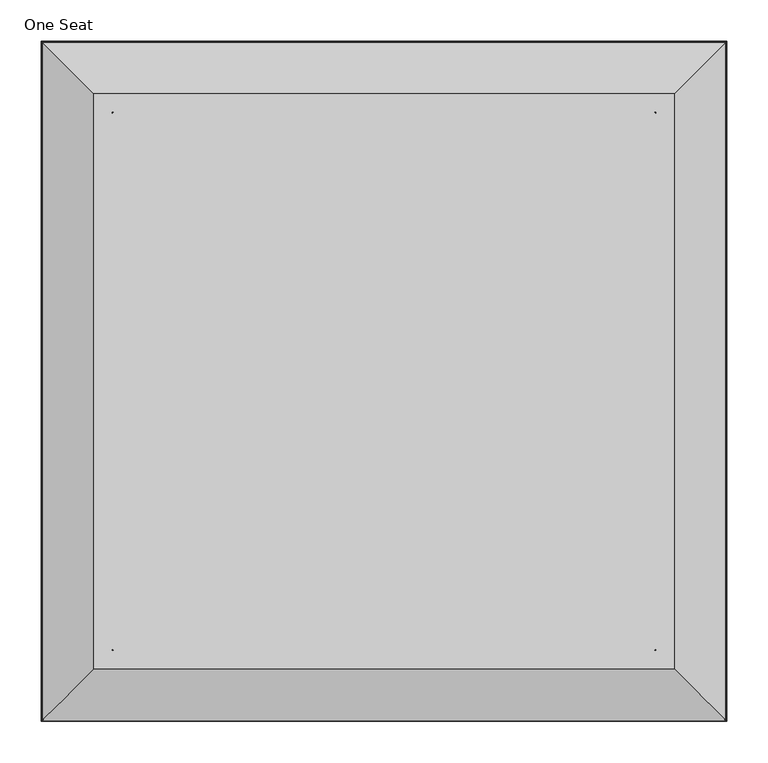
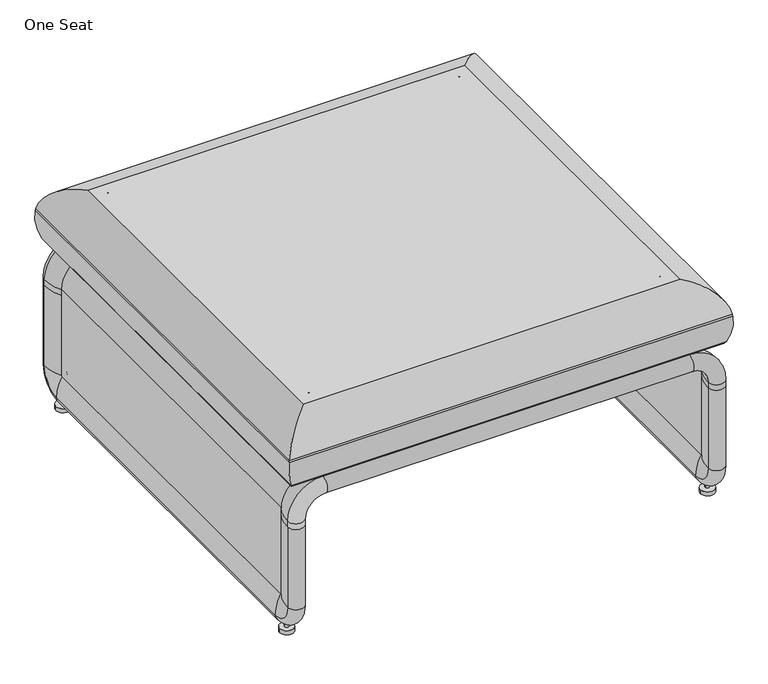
"""IFC4 building model written with IfcOpenShell, lengths in millimetres: furniture geometry, Coalesse_AM_Seating_LoungeChair_Lagunitas_Bench : One Seat."""

from ifc_helpers import new_model, si_unit, point, frame, frame_2d, origin, origin_with_axes, place, context, project, spatial, polyline, circle_curve, ellipse_curve, trimmed, segment, composite_curve, outline, extrude, source, transform, mapped, element, save
from ifc_brep_helpers import plane_surface, cylinder_surface, revolved_surface, advanced_brep


def one_seat_c15789ba(model_context):
    return source(origin(), model_context, "Body", "SolidModel", [
        advanced_brep(
        [(-694.9854971, 331.7027048, 308.3159554), (-694.9854971, 331.7027048, 423.1505158), (-695.7474971, 331.7027048, 423.1505158), (-695.7474971, 331.7027048, 308.3159554), (-1352.2104971, 331.7027048, 423.1505158), (-1352.2104971, 331.7027048, 308.3159554), (-1351.4484971, 331.7027048, 308.3159554), (-1351.4484971, 331.7027048, 423.1505158), (-617.1074004, 409.5808014, 313.8220641), (-625.4907835, 401.1974183, 308.3159554), (-1421.7052106, 401.1974183, 308.3159554), (-1430.0885937, 409.5808014, 313.8220641), (-1437.7967459, 417.2889536, 366.6638866), (-609.3992483, 417.2889536, 366.6638866), (-1437.3399768, 416.8321845, 370.0179265), (-609.8560174, 416.8321845, 370.0179265), (-1375.456588, 354.9487957, 423.1505158), (-671.7394061, 354.9487957, 423.1505158), (-1352.2104971, 330.9407048, 423.1505158), (-1352.2104971, 330.9407048, 308.3159554), (-1352.2104971, -319.1854727, 423.1505158), (-1352.2104971, -319.1854727, 308.3159554), (-1352.2104971, -318.4234727, 308.3159554), (-1352.2104971, -318.4234727, 423.1505158), (-1421.7052106, -388.6801863, 308.3159554), (-1430.0885937, -397.0635693, 313.8220641), (-1437.7967459, -404.7717215, 366.6638866), (-1437.3399768, -404.3149524, 370.0179265), (-1375.456588, -342.4315637, 423.1505158), (-1351.4484971, -319.1854727, 423.1505158), (-1351.4484971, -319.1854727, 308.3159554), (-694.9854971, -319.1854727, 423.1505158), (-694.9854971, -319.1854727, 308.3159554), (-695.7474971, -319.1854727, 308.3159554), (-695.7474971, -319.1854727, 423.1505158), (-625.4907835, -388.6801863, 308.3159554), (-617.1074004, -397.0635693, 313.8220641), (-609.3992483, -404.7717215, 366.6638866), (-609.8560174, -404.3149524, 370.0179265), (-671.7394061, -342.4315637, 423.1505158), (-694.9854971, 330.9407048, 308.3159554), (-694.9854971, 330.9407048, 423.1505158), (-694.9854971, -318.4234727, 423.1505158), (-694.9854971, -318.4234727, 308.3159554)],
        [
            (0, 1),
            (1, 2),
            (2, 3),
            (3, 0),
            (4, 5),
            (5, 6),
            (6, 7),
            (7, 4),
            (8, 9, ellipse_curve(frame((-625.4907835, 401.1974183, 317.4511134), z_axis=(-0.7071067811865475, 0.7071067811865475, 0.0), x_axis=(0.7071067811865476, 0.7071067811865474, 0.0)), 12.9190643, 9.135158)),
            (9, 10),
            (10, 11, ellipse_curve(frame((-1421.7052106, 401.1974183, 317.4511134), z_axis=(0.7071067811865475, 0.7071067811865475, 0.0), x_axis=(0.7071067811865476, -0.7071067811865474, 0.0)), 12.9190643, 9.135158)),
            (11, 8),
            (11, 12, ellipse_curve(frame((-1336.0753091, 315.5675168, 354.5191011), z_axis=(0.7071067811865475, 0.7071067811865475, 0.0), x_axis=(0.7071067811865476, -0.7071067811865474, 0.0)), 144.8775104, 102.44387)),
            (12, 13),
            (13, 8, ellipse_curve(frame((-711.120685, 315.5675168, 354.5191011), z_axis=(-0.7071067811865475, 0.7071067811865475, 0.0), x_axis=(0.7071067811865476, 0.7071067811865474, 0.0)), 144.8775104, 102.44387)),
            (12, 14, ellipse_curve(frame((-1336.0753091, 315.5675168, 354.5191011), z_axis=(0.7071067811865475, 0.7071067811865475, 0.0), x_axis=(0.7071067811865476, -0.7071067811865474, 0.0)), 144.8775104, 102.44387)),
            (14, 15),
            (15, 13, ellipse_curve(frame((-711.120685, 315.5675168, 354.5191011), z_axis=(-0.7071067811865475, 0.7071067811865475, 0.0), x_axis=(0.7071067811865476, 0.7071067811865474, 0.0)), 144.8775104, 102.44387)),
            (14, 16, ellipse_curve(frame((-1375.456588, 354.9487957, 360.5465101), z_axis=(0.7071067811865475, 0.7071067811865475, 0.0), x_axis=(0.7071067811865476, -0.7071067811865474, 0.0)), 88.535434, 62.6040057)),
            (16, 17),
            (17, 15, ellipse_curve(frame((-671.7394061, 354.9487957, 360.5465101), z_axis=(-0.7071067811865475, 0.7071067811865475, 0.0), x_axis=(0.7071067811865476, 0.7071067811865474, 0.0)), 88.535434, 62.6040057)),
            (4, 18),
            (18, 19),
            (19, 5),
            (20, 21),
            (21, 22),
            (22, 23),
            (23, 20),
            (10, 24),
            (24, 25, ellipse_curve(frame((-1421.7052106, -388.6801863, 317.4511134), z_axis=(-0.7071067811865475, 0.7071067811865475, 0.0), x_axis=(0.7071067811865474, 0.7071067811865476, 0.0)), 12.9190643, 9.135158)),
            (25, 11),
            (25, 26, ellipse_curve(frame((-1336.0753091, -303.0502848, 354.5191011), z_axis=(-0.7071067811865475, 0.7071067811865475, 0.0), x_axis=(0.7071067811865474, 0.7071067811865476, 0.0)), 144.8775104, 102.44387)),
            (26, 12),
            (26, 27, ellipse_curve(frame((-1336.0753091, -303.0502848, 354.5191011), z_axis=(-0.7071067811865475, 0.7071067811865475, 0.0), x_axis=(0.7071067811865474, 0.7071067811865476, 0.0)), 144.8775104, 102.44387)),
            (27, 14),
            (27, 28, ellipse_curve(frame((-1375.456588, -342.4315637, 360.5465101), z_axis=(-0.7071067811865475, 0.7071067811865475, 0.0), x_axis=(0.7071067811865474, 0.7071067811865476, 0.0)), 88.535434, 62.6040057)),
            (28, 16),
            (20, 29),
            (29, 30),
            (30, 21),
            (31, 32),
            (32, 33),
            (33, 34),
            (34, 31),
            (24, 35),
            (35, 36, ellipse_curve(frame((-625.4907835, -388.6801863, 317.4511134), z_axis=(-0.7071067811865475, -0.7071067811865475, 0.0), x_axis=(-0.7071067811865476, 0.7071067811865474, 0.0)), 12.9190643, 9.135158)),
            (36, 25),
            (36, 37, ellipse_curve(frame((-711.120685, -303.0502848, 354.5191011), z_axis=(-0.7071067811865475, -0.7071067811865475, 0.0), x_axis=(-0.7071067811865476, 0.7071067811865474, 0.0)), 144.8775104, 102.44387)),
            (37, 26),
            (37, 38, ellipse_curve(frame((-711.120685, -303.0502848, 354.5191011), z_axis=(-0.7071067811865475, -0.7071067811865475, 0.0), x_axis=(-0.7071067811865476, 0.7071067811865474, 0.0)), 144.8775104, 102.44387)),
            (38, 27),
            (38, 39, ellipse_curve(frame((-671.7394061, -342.4315637, 360.5465101), z_axis=(-0.7071067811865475, -0.7071067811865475, 0.0), x_axis=(-0.7071067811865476, 0.7071067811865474, 0.0)), 88.535434, 62.6040057)),
            (39, 28),
            (0, 40),
            (40, 41),
            (41, 1),
            (31, 42),
            (42, 43),
            (43, 32),
            (9, 35),
            (3, 40, circle_curve(frame((-695.7474971, 330.9407048, 308.3159554), z_axis=(0.0, 0.0, -1.0), x_axis=(1.0, 0.0, 0.0)), 0.762)),
            (19, 6, circle_curve(frame((-1351.4484971, 330.9407048, 308.3159554), z_axis=(0.0, 0.0, -1.0), x_axis=(1.0, 0.0, 0.0)), 0.762)),
            (30, 22, circle_curve(frame((-1351.4484971, -318.4234727, 308.3159554), z_axis=(0.0, 0.0, -1.0), x_axis=(1.0, 0.0, 0.0)), 0.762)),
            (43, 33, circle_curve(frame((-695.7474971, -318.4234727, 308.3159554), z_axis=(0.0, 0.0, -1.0), x_axis=(1.0, 0.0, 0.0)), 0.762)),
            (8, 36),
            (13, 37),
            (15, 38),
            (17, 39),
            (7, 18, circle_curve(frame((-1351.4484971, 330.9407048, 423.1505158), z_axis=(0.0, 0.0, 1.0), x_axis=(1.0, 0.0, 0.0)), 0.762)),
            (23, 29, circle_curve(frame((-1351.4484971, -318.4234727, 423.1505158), z_axis=(0.0, 0.0, 1.0), x_axis=(1.0, 0.0, 0.0)), 0.762)),
            (34, 42, circle_curve(frame((-695.7474971, -318.4234727, 423.1505158), z_axis=(0.0, 0.0, 1.0), x_axis=(1.0, 0.0, 0.0)), 0.762)),
            (41, 2, circle_curve(frame((-695.7474971, 330.9407048, 423.1505158), z_axis=(0.0, 0.0, 1.0), x_axis=(1.0, 0.0, 0.0)), 0.762)),
        ],
        [
            plane_surface(frame((-694.9854971, 331.7027048, 423.1505158), z_axis=(0.0, -1.0, 0.0), x_axis=(-1.0, 0.0, 0.0))),
            cylinder_surface(frame((-694.9854971, 401.1974183, 317.4511134), z_axis=(1.0, 0.0, 0.0), x_axis=(0.0, -1.0, 0.0)), 9.135158),
            cylinder_surface(frame((-694.9854971, 315.5675168, 354.5191011), z_axis=(1.0, 0.0, 0.0), x_axis=(0.0, -1.0, 0.0)), 102.44387),
            cylinder_surface(frame((-694.9854971, 354.9487957, 360.5465101), z_axis=(1.0, 0.0, 0.0), x_axis=(0.0, -1.0, 0.0)), 62.6040057),
            plane_surface(frame((-1352.2104971, 331.7027048, 423.1505158), z_axis=(1.0, 0.0, 0.0), x_axis=(0.0, -1.0, 0.0))),
            cylinder_surface(frame((-1421.7052106, 331.7027048, 317.4511134), z_axis=(0.0, 1.0, 0.0), x_axis=(1.0, 0.0, 0.0)), 9.135158),
            cylinder_surface(frame((-1336.0753091, 331.7027048, 354.5191011), z_axis=(0.0, 1.0, 0.0), x_axis=(1.0, 0.0, 0.0)), 102.44387),
            cylinder_surface(frame((-1375.456588, 331.7027048, 360.5465101), z_axis=(0.0, 1.0, 0.0), x_axis=(1.0, 0.0, 0.0)), 62.6040057),
            plane_surface(frame((-1352.2104971, -319.1854727, 423.1505158), z_axis=(0.0, 1.0, 0.0), x_axis=(1.0, 0.0, 0.0))),
            cylinder_surface(frame((-1352.2104971, -388.6801863, 317.4511134), z_axis=(-1.0, 0.0, 0.0), x_axis=(0.0, 1.0, 0.0)), 9.135158),
            cylinder_surface(frame((-1352.2104971, -303.0502848, 354.5191011), z_axis=(-1.0, 0.0, 0.0), x_axis=(0.0, 1.0, 0.0)), 102.44387),
            cylinder_surface(frame((-1352.2104971, -342.4315637, 360.5465101), z_axis=(-1.0, 0.0, 0.0), x_axis=(0.0, 1.0, 0.0)), 62.6040057),
            plane_surface(frame((-694.9854971, -319.1854727, 423.1505158), z_axis=(-1.0, 0.0, 0.0), x_axis=(0.0, 1.0, 0.0))),
            plane_surface(frame((-694.9854971, -319.1854727, 308.3159554), z_axis=(0.0, 0.0, -1.0), x_axis=(0.0, 1.0, 0.0))),
            cylinder_surface(frame((-625.4907835, -319.1854727, 317.4511134), z_axis=(0.0, -1.0, 0.0), x_axis=(-1.0, 0.0, 0.0)), 9.135158),
            cylinder_surface(frame((-711.120685, -319.1854727, 354.5191011), z_axis=(0.0, -1.0, 0.0), x_axis=(-1.0, 0.0, 0.0)), 102.44387),
            cylinder_surface(frame((-671.7394061, -319.1854727, 360.5465101), z_axis=(0.0, -1.0, 0.0), x_axis=(-1.0, 0.0, 0.0)), 62.6040057),
            plane_surface(frame((-671.7394061, -342.4315637, 423.1505158), z_axis=(0.0, 0.0, 1.0), x_axis=(0.0, 1.0, 0.0))),
            cylinder_surface(frame((-1351.4484971, 330.9407048, 308.3159554), z_axis=(0.0, 0.0, 1.0), x_axis=(1.0, 0.0, 0.0)), 0.762),
            cylinder_surface(frame((-1351.4484971, -318.4234727, 308.3159554), z_axis=(0.0, 0.0, 1.0), x_axis=(1.0, 0.0, 0.0)), 0.762),
            cylinder_surface(frame((-695.7474971, -318.4234727, 308.3159554), z_axis=(0.0, 0.0, 1.0), x_axis=(1.0, 0.0, 0.0)), 0.762),
            cylinder_surface(frame((-695.7474971, 330.9407048, 308.3159554), z_axis=(0.0, 0.0, 1.0), x_axis=(1.0, 0.0, 0.0)), 0.762),
        ],
        [
            (0, [[1, 2, 3, 4]]),
            (0, [[5, 6, 7, 8]]),
            (1, [[9, 10, 11, 12]]),
            (2, [[-12, 13, 14, 15]]),
            (2, [[-14, 16, 17, 18]]),
            (3, [[-17, 19, 20, 21]]),
            (4, [[-5, 22, 23, 24]]),
            (4, [[25, 26, 27, 28]]),
            (5, [[-11, 29, 30, 31]]),
            (6, [[-13, -31, 32, 33]]),
            (6, [[-16, -33, 34, 35]]),
            (7, [[-19, -35, 36, 37]]),
            (8, [[-25, 38, 39, 40]]),
            (8, [[41, 42, 43, 44]]),
            (9, [[-30, 45, 46, 47]]),
            (10, [[-32, -47, 48, 49]]),
            (10, [[-34, -49, 50, 51]]),
            (11, [[-36, -51, 52, 53]]),
            (12, [[-1, 54, 55, 56]]),
            (12, [[-41, 57, 58, 59]]),
            (13, [[-10, 60, -45, -29], [-4, 61, -54], [-24, 62, -6], [-40, 63, -26], [-59, 64, -42]]),
            (14, [[-9, 65, -46, -60]]),
            (15, [[-15, 66, -48, -65]]),
            (15, [[-18, 67, -50, -66]]),
            (16, [[-21, 68, -52, -67]]),
            (17, [[-20, -37, -53, -68], [-8, 69, -22], [-28, 70, -38], [-44, 71, -57], [-56, 72, -2]]),
            (18, [[-69, -7, -62, -23]]),
            (19, [[-70, -27, -63, -39]]),
            (20, [[-71, -43, -64, -58]]),
            (21, [[-72, -55, -61, -3]]),
        ],
    ),
        extrude(outline(composite_curve([segment(trimmed(circle_curve(frame_2d((-629.9086271, -358.9512574)), 13.208), [point((-616.7006271, -358.9512574))], [point((-643.1166271, -358.9512574))], False, "CARTESIAN"), True, "CONTINUOUS"), segment(trimmed(circle_curve(frame_2d((-629.9086271, -358.9512574)), 13.208), [point((-643.1166271, -358.9512574))], [point((-616.7006271, -358.9512574))], False, "CARTESIAN"), True, "CONTINUOUS")], self_intersect=False)), origin_with_axes(), (0.0, 0.0, 1.0), 7.9249983),
        extrude(outline(composite_curve([segment(trimmed(circle_curve(frame_2d((-630.7733341, 366.0094457)), 13.208), [point((-617.5653341, 366.0094457))], [point((-643.9813341, 366.0094457))], False, "CARTESIAN"), True, "CONTINUOUS"), segment(trimmed(circle_curve(frame_2d((-630.7733341, 366.0094457)), 13.208), [point((-643.9813341, 366.0094457))], [point((-617.5653341, 366.0094457))], False, "CARTESIAN"), True, "CONTINUOUS")], self_intersect=False)), origin_with_axes(), (0.0, 0.0, 1.0), 7.9249983),
        extrude(outline(composite_curve([segment(trimmed(circle_curve(frame_2d((-630.0389401, 365.9413212)), 3.8556407), [point((-626.1832994, 365.9413212))], [point((-633.8945809, 365.9413212))], False, "CARTESIAN"), True, "CONTINUOUS"), segment(trimmed(circle_curve(frame_2d((-630.0389401, 365.9413212)), 3.8556407), [point((-633.8945809, 365.9413212))], [point((-626.1832994, 365.9413212))], False, "CARTESIAN"), True, "CONTINUOUS")], self_intersect=False)), frame((0.0, 0.0, 7.9249983), z_axis=(0.0, 0.0, 1.0), x_axis=(1.0, 0.0, 0.0)), (0.0, 0.0, 1.0), 41.9053919),
        extrude(outline(composite_curve([segment(trimmed(circle_curve(frame_2d((-630.0389401, -357.9586788)), 3.8556407), [point((-626.1832994, -357.9586788))], [point((-633.8945809, -357.9586788))], False, "CARTESIAN"), True, "CONTINUOUS"), segment(trimmed(circle_curve(frame_2d((-630.0389401, -357.9586788)), 3.8556407), [point((-633.8945809, -357.9586788))], [point((-626.1832994, -357.9586788))], False, "CARTESIAN"), True, "CONTINUOUS")], self_intersect=False)), frame((0.0, 0.0, 7.9249983), z_axis=(0.0, 0.0, 1.0), x_axis=(1.0, 0.0, 0.0)), (0.0, 0.0, 1.0), 41.9053919),
        advanced_brep(
        [(-1364.817987, 361.2223108, 294.5571477), (-1364.817987, -349.3993584, 294.5571477), (-680.8932141, -349.3993584, 294.5571477), (-680.8932141, 361.2223108, 294.5571477), (-680.8932141, 399.3471866, 304.6510848), (-1364.817987, 399.3471866, 304.6510848), (-680.8932141, 399.3471866, 273.9829819), (-1364.817987, 399.3471866, 273.9829819), (-680.8932141, 361.2223108, 284.076919), (-1364.817987, 361.2223108, 284.076919), (-680.8932141, -349.3993584, 284.076919), (-1364.817987, -349.3993584, 284.076919), (-680.8932141, -387.5242343, 273.9829819), (-1364.817987, -387.5242343, 273.9829819), (-680.8932141, -387.5242343, 304.6510848), (-1364.817987, -387.5242343, 304.6510848), (-1421.0182157, -349.3993584, 227.5269902), (-1421.0182157, -349.3993584, 238.356919), (-1421.0182157, 361.2223108, 238.356919), (-1421.0182157, 361.2223108, 227.5269902), (-1421.0182157, 361.2223108, 68.7769902), (-1421.0182157, 359.9523108, 67.5069902), (-1421.0182157, -348.1293584, 67.5069902), (-1421.0182157, -349.3993584, 68.7769902), (-1431.1121528, 399.3471866, 238.356919), (-1431.1121528, 399.3471866, 227.5269902), (-1400.4440499, 399.3471866, 238.356919), (-1400.4440499, 399.3471866, 227.5269902), (-1410.537987, 361.2223108, 238.356919), (-1410.537987, 361.2223108, 227.5269902), (-1410.537987, -349.3993584, 238.356919), (-1410.537987, -349.3993584, 227.5269902), (-1410.537987, -349.3993584, 68.7769902), (-1410.537987, -348.1293832, 67.5069902), (-1410.537987, 359.9523108, 67.5069902), (-1410.537987, 361.2223108, 68.7769646), (-1400.4440499, -387.5242343, 238.356919), (-1400.4440499, -387.5242343, 227.5269902), (-1431.1121528, -387.5242343, 238.356919), (-1431.1121528, -387.5242343, 227.5269902), (-1400.4440499, -387.5242343, 68.7769902), (-1431.1121528, -387.5242343, 68.7769902), (-1400.4440499, -348.1293584, 29.3821143), (-1431.1121528, -348.1293584, 29.3821143), (-1400.4440499, 359.9523108, 29.3821143), (-1431.1121528, 359.9523108, 29.3821143), (-1400.4440499, 399.3471866, 68.7769902), (-1431.1121528, 399.3471866, 68.7769902), (-624.6929853, -349.3993584, 238.356919), (-624.6929853, 361.2223108, 238.356919), (-614.5990483, 399.3471866, 238.356919), (-645.2671512, 399.3471866, 238.356919), (-635.1732141, 361.2223108, 238.356919), (-635.1732141, -349.3993584, 238.356919), (-645.2671512, -387.5242343, 238.356919), (-614.5990483, -387.5242343, 238.356919), (-624.6929853, -349.3993584, 227.5269902), (-624.6929853, -349.3993584, 68.7769902), (-624.6929853, -348.1293584, 67.5069902), (-624.6929853, 359.9523108, 67.5069902), (-624.6929853, 361.2223108, 68.7769902), (-624.6929853, 361.2223108, 227.5269902), (-614.5990483, 399.3471866, 227.5269902), (-645.2671512, 399.3471866, 227.5269902), (-635.1732141, 361.2223108, 227.5269902), (-635.1732141, 361.2223108, 68.7769902), (-635.1732141, 359.9523108, 67.5069902), (-635.1732141, -348.1293584, 67.5069902), (-635.1732141, -349.3993584, 68.7769902), (-635.1732141, -349.3993584, 227.5269902), (-645.2671512, -387.5242343, 227.5269902), (-614.5990483, -387.5242343, 227.5269902), (-645.2671512, -387.5242343, 68.7769902), (-614.5990483, -387.5242343, 68.7769902), (-645.2671512, -348.1293584, 29.3821143), (-614.5990483, -348.1293584, 29.3821143), (-645.2671512, 359.9523108, 29.3821143), (-614.5990483, 359.9523108, 29.3821143), (-645.2671512, 399.3471866, 68.7769902), (-614.5990483, 399.3471866, 68.7769902)],
        [
            (0, 1),
            (1, 2),
            (2, 3),
            (3, 0),
            (3, 4, circle_curve(frame((-680.8932141, 399.022058, 228.8331589), z_axis=(-1.0, 0.0, 0.0), x_axis=(0.0, 0.0, 1.0)), 75.818623)),
            (4, 5),
            (5, 0, circle_curve(frame((-1364.817987, 399.022058, 228.8331589), z_axis=(1.0, 0.0, 0.0), x_axis=(0.0, 0.0, 1.0)), 75.818623)),
            (4, 6, circle_curve(frame((-680.8932141, 399.2814298, 289.3170334), z_axis=(-1.0, 0.0, 0.0), x_axis=(0.0, 0.0, 1.0)), 15.3341924)),
            (6, 7),
            (7, 5, circle_curve(frame((-1364.817987, 399.2814298, 289.3170334), z_axis=(1.0, 0.0, 0.0), x_axis=(0.0, 0.0, 1.0)), 15.3341924)),
            (6, 8, circle_curve(frame((-680.8932141, 399.022058, 349.8009078), z_axis=(-1.0, 0.0, 0.0), x_axis=(0.0, 0.0, 1.0)), 75.818623)),
            (8, 9),
            (9, 7, circle_curve(frame((-1364.817987, 399.022058, 349.8009078), z_axis=(1.0, 0.0, 0.0), x_axis=(0.0, 0.0, 1.0)), 75.818623)),
            (8, 10),
            (10, 11),
            (11, 9),
            (10, 12, circle_curve(frame((-680.8932141, -387.1991056, 349.8009078), z_axis=(-1.0, 0.0, 0.0), x_axis=(0.0, 0.0, 1.0)), 75.818623)),
            (12, 13),
            (13, 11, circle_curve(frame((-1364.817987, -387.1991056, 349.8009078), z_axis=(1.0, 0.0, 0.0), x_axis=(0.0, 0.0, 1.0)), 75.818623)),
            (12, 14, circle_curve(frame((-680.8932141, -387.4584775, 289.3170334), z_axis=(-1.0, 0.0, 0.0), x_axis=(0.0, 0.0, 1.0)), 15.3341924)),
            (14, 15),
            (15, 13, circle_curve(frame((-1364.817987, -387.4584775, 289.3170334), z_axis=(1.0, 0.0, 0.0), x_axis=(0.0, 0.0, 1.0)), 15.3341924)),
            (1, 15, circle_curve(frame((-1364.817987, -387.1991056, 228.8331589), z_axis=(1.0, 0.0, 0.0), x_axis=(0.0, 0.0, 1.0)), 75.818623)),
            (14, 2, circle_curve(frame((-680.8932141, -387.1991056, 228.8331589), z_axis=(-1.0, 0.0, 0.0), x_axis=(0.0, 0.0, 1.0)), 75.818623)),
            (16, 17),
            (17, 18),
            (18, 19),
            (19, 20),
            (20, 21, circle_curve(frame((-1421.0182157, 359.9523108, 68.7769902), z_axis=(-1.0, 0.0, 0.0), x_axis=(0.0, 0.0, -1.0)), 1.27)),
            (21, 22),
            (22, 23, circle_curve(frame((-1421.0182157, -348.1293584, 68.7769902), z_axis=(-1.0, 0.0, 0.0), x_axis=(0.0, -1.0, 0.0)), 1.27)),
            (23, 16),
            (18, 24, circle_curve(frame((-1355.2942269, 399.022058, 238.356919), z_axis=(0.0, 0.0, -1.0), x_axis=(-1.0, 0.0, 0.0)), 75.818623)),
            (24, 25),
            (25, 19, circle_curve(frame((-1355.2942269, 399.022058, 227.5269902), z_axis=(0.0, 0.0, 1.0), x_axis=(-1.0, 0.0, 0.0)), 75.818623)),
            (24, 26, circle_curve(frame((-1415.7781014, 399.2814298, 238.356919), z_axis=(0.0, 0.0, -1.0), x_axis=(-1.0, 0.0, 0.0)), 15.3341924)),
            (26, 27),
            (27, 25, circle_curve(frame((-1415.7781014, 399.2814298, 227.5269902), z_axis=(0.0, 0.0, 1.0), x_axis=(-1.0, 0.0, 0.0)), 15.3341924)),
            (26, 28, circle_curve(frame((-1476.2619758, 399.022058, 238.356919), z_axis=(0.0, 0.0, -1.0), x_axis=(-1.0, 0.0, 0.0)), 75.818623)),
            (28, 29),
            (29, 27, circle_curve(frame((-1476.2619758, 399.022058, 227.5269902), z_axis=(0.0, 0.0, 1.0), x_axis=(-1.0, 0.0, 0.0)), 75.818623)),
            (28, 30),
            (30, 31),
            (31, 32),
            (32, 33, circle_curve(frame((-1410.537987, -348.1293584, 68.7769902), z_axis=(1.0, 0.0, 0.0), x_axis=(0.0, -1.0, 0.0)), 1.27)),
            (33, 34),
            (34, 35, circle_curve(frame((-1410.537987, 359.9523108, 68.7769902), z_axis=(1.0, 0.0, 0.0), x_axis=(0.0, 0.0, -1.0)), 1.27)),
            (35, 29),
            (30, 36, circle_curve(frame((-1476.2619758, -387.1991056, 238.356919), z_axis=(0.0, 0.0, -1.0), x_axis=(-1.0, 0.0, 0.0)), 75.818623)),
            (36, 37),
            (37, 31, circle_curve(frame((-1476.2619758, -387.1991056, 227.5269902), z_axis=(0.0, 0.0, 1.0), x_axis=(-1.0, 0.0, 0.0)), 75.818623)),
            (36, 38, circle_curve(frame((-1415.7781014, -387.4584775, 238.356919), z_axis=(0.0, 0.0, -1.0), x_axis=(-1.0, 0.0, 0.0)), 15.3341924)),
            (38, 39),
            (39, 37, circle_curve(frame((-1415.7781014, -387.4584775, 227.5269902), z_axis=(0.0, 0.0, 1.0), x_axis=(-1.0, 0.0, 0.0)), 15.3341924)),
            (16, 39, circle_curve(frame((-1355.2942269, -387.1991056, 227.5269902), z_axis=(0.0, 0.0, 1.0), x_axis=(-1.0, 0.0, 0.0)), 75.818623)),
            (38, 17, circle_curve(frame((-1355.2942269, -387.1991056, 238.356919), z_axis=(0.0, 0.0, -1.0), x_axis=(-1.0, 0.0, 0.0)), 75.818623)),
            (0, 18, circle_curve(frame((-1364.817987, 361.2223108, 238.356919), z_axis=(0.0, -1.0, 0.0), x_axis=(-1.0, 0.0, 0.0)), 56.2002288)),
            (17, 1, circle_curve(frame((-1364.817987, -349.3993584, 238.356919), z_axis=(0.0, 1.0, 0.0), x_axis=(-1.0, 0.0, 0.0)), 56.2002288)),
            (5, 24, circle_curve(frame((-1364.817987, 399.3471866, 238.356919), z_axis=(0.0, -1.0, 0.0), x_axis=(-1.0, 0.0, 0.0)), 66.2941658)),
            (7, 26, circle_curve(frame((-1364.817987, 399.3471866, 238.356919), z_axis=(0.0, -1.0, 0.0), x_axis=(-1.0, 0.0, 0.0)), 35.6260629)),
            (9, 28, circle_curve(frame((-1364.817987, 361.2223108, 238.356919), z_axis=(0.0, -1.0, 0.0), x_axis=(-1.0, 0.0, 0.0)), 45.72)),
            (11, 30, circle_curve(frame((-1364.817987, -349.3993584, 238.356919), z_axis=(0.0, -1.0, 0.0), x_axis=(-1.0, 0.0, 0.0)), 45.72)),
            (13, 36, circle_curve(frame((-1364.817987, -387.5242343, 238.356919), z_axis=(0.0, -1.0, 0.0), x_axis=(-1.0, 0.0, 0.0)), 35.6260629)),
            (15, 38, circle_curve(frame((-1364.817987, -387.5242343, 238.356919), z_axis=(0.0, -1.0, 0.0), x_axis=(-1.0, 0.0, 0.0)), 66.2941658)),
            (37, 40),
            (40, 32, circle_curve(frame((-1476.2619758, -387.1991056, 68.7769902), z_axis=(0.0, 0.0, 1.0), x_axis=(1.0, 0.0, 0.0)), 75.818623)),
            (23, 41, circle_curve(frame((-1355.2942269, -387.1991056, 68.7769902), z_axis=(0.0, 0.0, 1.0), x_axis=(1.0, 0.0, 0.0)), 75.818623)),
            (41, 39),
            (41, 40, circle_curve(frame((-1415.7781014, -387.4584775, 68.7769902), z_axis=(0.0, 0.0, 1.0), x_axis=(1.0, 0.0, 0.0)), 15.3341924)),
            (40, 42, circle_curve(frame((-1400.4440499, -348.1293584, 68.7769902), z_axis=(1.0, 0.0, 0.0), x_axis=(0.0, -1.0, 0.0)), 39.3948758)),
            (42, 33, circle_curve(frame((-1476.2619758, -348.1293584, 29.707243), z_axis=(0.0, -1.0, 0.0), x_axis=(1.0, 0.0, 0.0)), 75.818623)),
            (22, 43, circle_curve(frame((-1355.2942269, -348.1293584, 29.707243), z_axis=(0.0, -1.0, 0.0), x_axis=(1.0, 0.0, 0.0)), 75.818623)),
            (43, 41, circle_curve(frame((-1431.1121528, -348.1293584, 68.7769902), z_axis=(-1.0, 0.0, 0.0), x_axis=(0.0, -1.0, 0.0)), 39.3948758)),
            (43, 42, circle_curve(frame((-1415.7781014, -348.1293584, 29.4478711), z_axis=(0.0, -1.0, 0.0), x_axis=(1.0, 0.0, 0.0)), 15.3341924)),
            (42, 44),
            (44, 34, circle_curve(frame((-1476.2619758, 359.9523108, 29.707243), z_axis=(0.0, -1.0, 0.0), x_axis=(1.0, 0.0, 0.0)), 75.818623)),
            (21, 45, circle_curve(frame((-1355.2942269, 359.9523108, 29.707243), z_axis=(0.0, -1.0, 0.0), x_axis=(1.0, 0.0, 0.0)), 75.818623)),
            (45, 43),
            (45, 44, circle_curve(frame((-1415.7781014, 359.9523108, 29.4478711), z_axis=(0.0, -1.0, 0.0), x_axis=(1.0, 0.0, 0.0)), 15.3341924)),
            (44, 46, circle_curve(frame((-1400.4440499, 359.9523108, 68.7769902), z_axis=(1.0, 0.0, 0.0), x_axis=(0.0, 0.0, -1.0)), 39.3948758)),
            (46, 35, circle_curve(frame((-1476.2619758, 399.022058, 68.7769902), z_axis=(0.0, 0.0, -1.0), x_axis=(1.0, 0.0, 0.0)), 75.818623)),
            (20, 47, circle_curve(frame((-1355.2942269, 399.022058, 68.7769902), z_axis=(0.0, 0.0, -1.0), x_axis=(1.0, 0.0, 0.0)), 75.818623)),
            (47, 45, circle_curve(frame((-1431.1121528, 359.9523108, 68.7769902), z_axis=(-1.0, 0.0, 0.0), x_axis=(0.0, 0.0, -1.0)), 39.3948758)),
            (47, 46, circle_curve(frame((-1415.7781014, 399.2814298, 68.7769902), z_axis=(0.0, 0.0, -1.0), x_axis=(1.0, 0.0, 0.0)), 15.3341924)),
            (46, 27),
            (25, 47),
            (2, 48, circle_curve(frame((-680.8932141, -349.3993584, 238.356919), z_axis=(0.0, 1.0, 0.0), x_axis=(0.0, 0.0, 1.0)), 56.2002288)),
            (48, 49),
            (49, 3, circle_curve(frame((-680.8932141, 361.2223108, 238.356919), z_axis=(0.0, -1.0, 0.0), x_axis=(0.0, 0.0, 1.0)), 56.2002288)),
            (49, 50, circle_curve(frame((-690.4169741, 399.022058, 238.356919), z_axis=(0.0, 0.0, 1.0), x_axis=(1.0, 0.0, 0.0)), 75.818623)),
            (50, 4, circle_curve(frame((-680.8932141, 399.3471866, 238.356919), z_axis=(0.0, -1.0, 0.0), x_axis=(0.0, 0.0, 1.0)), 66.2941658)),
            (50, 51, circle_curve(frame((-629.9330997, 399.2814298, 238.356919), z_axis=(0.0, 0.0, 1.0), x_axis=(1.0, 0.0, 0.0)), 15.3341924)),
            (51, 6, circle_curve(frame((-680.8932141, 399.3471866, 238.356919), z_axis=(0.0, -1.0, 0.0), x_axis=(0.0, 0.0, 1.0)), 35.6260629)),
            (51, 52, circle_curve(frame((-569.4492253, 399.022058, 238.356919), z_axis=(0.0, 0.0, 1.0), x_axis=(1.0, 0.0, 0.0)), 75.818623)),
            (52, 8, circle_curve(frame((-680.8932141, 361.2223108, 238.356919), z_axis=(0.0, -1.0, 0.0), x_axis=(0.0, 0.0, 1.0)), 45.72)),
            (52, 53),
            (53, 10, circle_curve(frame((-680.8932141, -349.3993584, 238.356919), z_axis=(0.0, -1.0, 0.0), x_axis=(0.0, 0.0, 1.0)), 45.72)),
            (53, 54, circle_curve(frame((-569.4492253, -387.1991056, 238.356919), z_axis=(0.0, 0.0, 1.0), x_axis=(1.0, 0.0, 0.0)), 75.818623)),
            (54, 12, circle_curve(frame((-680.8932141, -387.5242343, 238.356919), z_axis=(0.0, -1.0, 0.0), x_axis=(0.0, 0.0, 1.0)), 35.6260629)),
            (54, 55, circle_curve(frame((-629.9330997, -387.4584775, 238.356919), z_axis=(0.0, 0.0, 1.0), x_axis=(1.0, 0.0, 0.0)), 15.3341924)),
            (55, 14, circle_curve(frame((-680.8932141, -387.5242343, 238.356919), z_axis=(0.0, -1.0, 0.0), x_axis=(0.0, 0.0, 1.0)), 66.2941658)),
            (55, 48, circle_curve(frame((-690.4169741, -387.1991056, 238.356919), z_axis=(0.0, 0.0, 1.0), x_axis=(1.0, 0.0, 0.0)), 75.818623)),
            (48, 56),
            (56, 57),
            (57, 58, circle_curve(frame((-624.6929853, -348.1293584, 68.7769902), z_axis=(1.0, 0.0, 0.0), x_axis=(0.0, -1.0, 0.0)), 1.27)),
            (58, 59),
            (59, 60, circle_curve(frame((-624.6929853, 359.9523108, 68.7769902), z_axis=(1.0, 0.0, 0.0), x_axis=(0.0, 0.0, -1.0)), 1.27)),
            (60, 61),
            (61, 49),
            (61, 62, circle_curve(frame((-690.4169741, 399.022058, 227.5269902), z_axis=(0.0, 0.0, 1.0), x_axis=(1.0, 0.0, 0.0)), 75.818623)),
            (62, 50),
            (62, 63, circle_curve(frame((-629.9330997, 399.2814298, 227.5269902), z_axis=(0.0, 0.0, 1.0), x_axis=(1.0, 0.0, 0.0)), 15.3341924)),
            (63, 51),
            (63, 64, circle_curve(frame((-569.4492253, 399.022058, 227.5269902), z_axis=(0.0, 0.0, 1.0), x_axis=(1.0, 0.0, 0.0)), 75.818623)),
            (64, 52),
            (64, 65),
            (65, 66, circle_curve(frame((-635.1732141, 359.9523108, 68.7769902), z_axis=(-1.0, 0.0, 0.0), x_axis=(0.0, 0.0, -1.0)), 1.27)),
            (66, 67),
            (67, 68, circle_curve(frame((-635.1732141, -348.1293584, 68.7769902), z_axis=(-1.0, 0.0, 0.0), x_axis=(0.0, -1.0, 0.0)), 1.27)),
            (68, 69),
            (69, 53),
            (69, 70, circle_curve(frame((-569.4492253, -387.1991056, 227.5269902), z_axis=(0.0, 0.0, 1.0), x_axis=(1.0, 0.0, 0.0)), 75.818623)),
            (70, 54),
            (70, 71, circle_curve(frame((-629.9330997, -387.4584775, 227.5269902), z_axis=(0.0, 0.0, 1.0), x_axis=(1.0, 0.0, 0.0)), 15.3341924)),
            (71, 55),
            (71, 56, circle_curve(frame((-690.4169741, -387.1991056, 227.5269902), z_axis=(0.0, 0.0, 1.0), x_axis=(1.0, 0.0, 0.0)), 75.818623)),
            (68, 72, circle_curve(frame((-569.4492253, -387.1991056, 68.7769902), z_axis=(0.0, 0.0, 1.0), x_axis=(-1.0, 0.0, 0.0)), 75.818623)),
            (72, 70),
            (71, 73),
            (73, 57, circle_curve(frame((-690.4169741, -387.1991056, 68.7769902), z_axis=(0.0, 0.0, 1.0), x_axis=(-1.0, 0.0, 0.0)), 75.818623)),
            (72, 73, circle_curve(frame((-629.9330997, -387.4584775, 68.7769902), z_axis=(0.0, 0.0, 1.0), x_axis=(-1.0, 0.0, 0.0)), 15.3341924)),
            (67, 74, circle_curve(frame((-569.4492253, -348.1293584, 29.707243), z_axis=(0.0, -1.0, 0.0), x_axis=(-1.0, 0.0, 0.0)), 75.818623)),
            (74, 72, circle_curve(frame((-645.2671512, -348.1293584, 68.7769902), z_axis=(-1.0, 0.0, 0.0), x_axis=(0.0, -1.0, 0.0)), 39.3948758)),
            (73, 75, circle_curve(frame((-614.5990483, -348.1293584, 68.7769902), z_axis=(1.0, 0.0, 0.0), x_axis=(0.0, -1.0, 0.0)), 39.3948758)),
            (75, 58, circle_curve(frame((-690.4169741, -348.1293584, 29.707243), z_axis=(0.0, -1.0, 0.0), x_axis=(-1.0, 0.0, 0.0)), 75.818623)),
            (74, 75, circle_curve(frame((-629.9330997, -348.1293584, 29.4478711), z_axis=(0.0, -1.0, 0.0), x_axis=(-1.0, 0.0, 0.0)), 15.3341924)),
            (66, 76, circle_curve(frame((-569.4492253, 359.9523108, 29.707243), z_axis=(0.0, -1.0, 0.0), x_axis=(-1.0, 0.0, 0.0)), 75.818623)),
            (76, 74),
            (75, 77),
            (77, 59, circle_curve(frame((-690.4169741, 359.9523108, 29.707243), z_axis=(0.0, -1.0, 0.0), x_axis=(-1.0, 0.0, 0.0)), 75.818623)),
            (76, 77, circle_curve(frame((-629.9330997, 359.9523108, 29.4478711), z_axis=(0.0, -1.0, 0.0), x_axis=(-1.0, 0.0, 0.0)), 15.3341924)),
            (65, 78, circle_curve(frame((-569.4492253, 399.022058, 68.7769902), z_axis=(0.0, 0.0, -1.0), x_axis=(-1.0, 0.0, 0.0)), 75.818623)),
            (78, 76, circle_curve(frame((-645.2671512, 359.9523108, 68.7769902), z_axis=(-1.0, 0.0, 0.0), x_axis=(0.0, 0.0, -1.0)), 39.3948758)),
            (77, 79, circle_curve(frame((-614.5990483, 359.9523108, 68.7769902), z_axis=(1.0, 0.0, 0.0), x_axis=(0.0, 0.0, -1.0)), 39.3948758)),
            (79, 60, circle_curve(frame((-690.4169741, 399.022058, 68.7769902), z_axis=(0.0, 0.0, -1.0), x_axis=(-1.0, 0.0, 0.0)), 75.818623)),
            (78, 79, circle_curve(frame((-629.9330997, 399.2814298, 68.7769902), z_axis=(0.0, 0.0, -1.0), x_axis=(-1.0, 0.0, 0.0)), 15.3341924)),
            (63, 78),
            (79, 62),
        ],
        [
            plane_surface(frame((-1364.817987, -349.3993584, 294.5571477), z_axis=(0.0, 0.0, 1.0), x_axis=(1.0, 0.0, 0.0))),
            cylinder_surface(frame((-1364.817987, 399.022058, 228.8331589), z_axis=(-1.0, 0.0, 0.0), x_axis=(0.0, 0.0, 1.0)), 75.818623),
            cylinder_surface(frame((-1364.817987, 399.2814298, 289.3170334), z_axis=(-1.0, 0.0, 0.0), x_axis=(0.0, 0.0, 1.0)), 15.3341924),
            cylinder_surface(frame((-1364.817987, 399.022058, 349.8009078), z_axis=(-1.0, 0.0, 0.0), x_axis=(0.0, 0.0, 1.0)), 75.818623),
            plane_surface(frame((-1364.817987, 361.2223108, 284.076919), z_axis=(0.0, 0.0, -1.0), x_axis=(1.0, 0.0, 0.0))),
            cylinder_surface(frame((-1364.817987, -387.1991056, 349.8009078), z_axis=(-1.0, 0.0, 0.0), x_axis=(0.0, 0.0, 1.0)), 75.818623),
            cylinder_surface(frame((-1364.817987, -387.4584775, 289.3170334), z_axis=(-1.0, 0.0, 0.0), x_axis=(0.0, 0.0, 1.0)), 15.3341924),
            cylinder_surface(frame((-1364.817987, -387.1991056, 228.8331589), z_axis=(-1.0, 0.0, 0.0), x_axis=(0.0, 0.0, 1.0)), 75.818623),
            plane_surface(frame((-1421.0182157, -349.3993584, 227.5269902), z_axis=(-1.0, 0.0, 0.0), x_axis=(0.0, 0.0, 1.0))),
            cylinder_surface(frame((-1355.2942269, 399.022058, 227.5269902), z_axis=(0.0, 0.0, -1.0), x_axis=(-1.0, 0.0, 0.0)), 75.818623),
            cylinder_surface(frame((-1415.7781014, 399.2814298, 227.5269902), z_axis=(0.0, 0.0, -1.0), x_axis=(-1.0, 0.0, 0.0)), 15.3341924),
            cylinder_surface(frame((-1476.2619758, 399.022058, 227.5269902), z_axis=(0.0, 0.0, -1.0), x_axis=(-1.0, 0.0, 0.0)), 75.818623),
            plane_surface(frame((-1410.537987, 361.2223108, 227.5269902), z_axis=(1.0, 0.0, 0.0), x_axis=(0.0, 0.0, 1.0))),
            cylinder_surface(frame((-1476.2619758, -387.1991056, 227.5269902), z_axis=(0.0, 0.0, -1.0), x_axis=(-1.0, 0.0, 0.0)), 75.818623),
            cylinder_surface(frame((-1415.7781014, -387.4584775, 227.5269902), z_axis=(0.0, 0.0, -1.0), x_axis=(-1.0, 0.0, 0.0)), 15.3341924),
            cylinder_surface(frame((-1355.2942269, -387.1991056, 227.5269902), z_axis=(0.0, 0.0, -1.0), x_axis=(-1.0, 0.0, 0.0)), 75.818623),
            cylinder_surface(frame((-1364.817987, 450.8524852, 238.356919), z_axis=(0.0, 1.0, 0.0), x_axis=(-1.0, 0.0, 0.0)), 56.2002288),
            revolved_surface(trimmed(ellipse_curve(frame((-1355.2942269, 399.022058, 238.356919), z_axis=(0.0, 0.0, -1.0), x_axis=(-1.0, 0.0, 0.0)), 75.818623, 75.818623), [point((-1421.0182157, 361.2223108, 238.356919))], [point((-1431.1121528, 399.3471866, 238.356919))], True, "CARTESIAN"), (-1364.817987, 450.8524852, 238.356919), (0.0, 1.0, 0.0)),
            revolved_surface(trimmed(ellipse_curve(frame((-1415.7781014, 399.2814298, 238.356919), z_axis=(0.0, 0.0, -1.0), x_axis=(-1.0, 0.0, 0.0)), 15.3341924, 15.3341924), [point((-1431.1121528, 399.3471866, 238.356919))], [point((-1400.4440499, 399.3471866, 238.356919))], True, "CARTESIAN"), (-1364.817987, 450.8524852, 238.356919), (0.0, 1.0, 0.0)),
            revolved_surface(trimmed(ellipse_curve(frame((-1476.2619758, 399.022058, 238.356919), z_axis=(0.0, 0.0, -1.0), x_axis=(-1.0, 0.0, 0.0)), 75.818623, 75.818623), [point((-1400.4440499, 399.3471866, 238.356919))], [point((-1410.537987, 361.2223108, 238.356919))], True, "CARTESIAN"), (-1364.817987, 450.8524852, 238.356919), (0.0, 1.0, 0.0)),
            revolved_surface(polyline([(-1410.537987, 361.2223108, 238.356919), (-1410.537987, -349.39935840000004, 238.356919)]), (-1364.817987, 450.8524852, 238.356919), (0.0, 1.0, 0.0)),
            revolved_surface(trimmed(ellipse_curve(frame((-1476.2619758, -387.1991056, 238.356919), z_axis=(0.0, 0.0, -1.0), x_axis=(-1.0, 0.0, 0.0)), 75.818623, 75.818623), [point((-1410.537987, -349.3993584, 238.356919))], [point((-1400.4440499, -387.5242343, 238.356919))], True, "CARTESIAN"), (-1364.817987, 450.8524852, 238.356919), (0.0, 1.0, 0.0)),
            revolved_surface(trimmed(ellipse_curve(frame((-1415.7781014, -387.4584775, 238.356919), z_axis=(0.0, 0.0, -1.0), x_axis=(-1.0, 0.0, 0.0)), 15.3341924, 15.3341924), [point((-1400.4440499, -387.5242343, 238.356919))], [point((-1431.1121528, -387.5242343, 238.356919))], True, "CARTESIAN"), (-1364.817987, 450.8524852, 238.356919), (0.0, 1.0, 0.0)),
            revolved_surface(trimmed(ellipse_curve(frame((-1355.2942269, -387.1991056, 238.356919), z_axis=(0.0, 0.0, -1.0), x_axis=(-1.0, 0.0, 0.0)), 75.818623, 75.818623), [point((-1431.1121528, -387.5242343, 238.356919))], [point((-1421.0182157, -349.3993584, 238.356919))], True, "CARTESIAN"), (-1364.817987, 450.8524852, 238.356919), (0.0, 1.0, 0.0)),
            cylinder_surface(frame((-1476.2619758, -387.1991056, 227.5269902), z_axis=(0.0, 0.0, 1.0), x_axis=(1.0, 0.0, 0.0)), 75.818623),
            cylinder_surface(frame((-1355.2942269, -387.1991056, 227.5269902), z_axis=(0.0, 0.0, 1.0), x_axis=(1.0, 0.0, 0.0)), 75.818623),
            cylinder_surface(frame((-1415.7781014, -387.4584775, 227.5269902), z_axis=(0.0, 0.0, 1.0), x_axis=(1.0, 0.0, 0.0)), 15.3341924),
            revolved_surface(trimmed(ellipse_curve(frame((-1476.2619758, -387.1991056, 68.7769902), z_axis=(0.0, 0.0, 1.0), x_axis=(1.0, 0.0, 0.0)), 75.818623, 75.818623), [point((-1400.4440499, -387.5242343, 68.7769902))], [point((-1410.537987, -349.3993584, 68.7769902))], True, "CARTESIAN"), (-1437.9354971, -348.1293584, 68.7769902), (1.0, 0.0, 0.0)),
            revolved_surface(trimmed(ellipse_curve(frame((-1355.2942269, -387.1991056, 68.7769902), z_axis=(0.0, 0.0, 1.0), x_axis=(1.0, 0.0, 0.0)), 75.818623, 75.818623), [point((-1421.0182157, -349.3993584, 68.7769902))], [point((-1431.1121528, -387.5242343, 68.7769902))], True, "CARTESIAN"), (-1437.9354971, -348.1293584, 68.7769902), (1.0, 0.0, 0.0)),
            revolved_surface(trimmed(ellipse_curve(frame((-1415.7781014, -387.4584775, 68.7769902), z_axis=(0.0, 0.0, 1.0), x_axis=(1.0, 0.0, 0.0)), 15.3341924, 15.3341924), [point((-1431.1121528, -387.5242343, 68.7769902))], [point((-1400.4440499, -387.5242343, 68.7769902))], True, "CARTESIAN"), (-1437.9354971, -348.1293584, 68.7769902), (1.0, 0.0, 0.0)),
            cylinder_surface(frame((-1476.2619758, -348.1293584, 29.707243), z_axis=(0.0, -1.0, 0.0), x_axis=(1.0, 0.0, 0.0)), 75.818623),
            cylinder_surface(frame((-1355.2942269, -348.1293584, 29.707243), z_axis=(0.0, -1.0, 0.0), x_axis=(1.0, 0.0, 0.0)), 75.818623),
            cylinder_surface(frame((-1415.7781014, -348.1293584, 29.4478711), z_axis=(0.0, -1.0, 0.0), x_axis=(1.0, 0.0, 0.0)), 15.3341924),
            revolved_surface(trimmed(ellipse_curve(frame((-1476.2619758, 359.9523108, 29.707243), z_axis=(0.0, -1.0, 0.0), x_axis=(1.0, 0.0, 0.0)), 75.818623, 75.818623), [point((-1400.4440499, 359.9523108, 29.3821143))], [point((-1410.537987, 359.9523108, 67.5069902))], True, "CARTESIAN"), (-1437.9354971, 359.9523108, 68.7769902), (1.0, 0.0, 0.0)),
            revolved_surface(trimmed(ellipse_curve(frame((-1355.2942269, 359.9523108, 29.707243), z_axis=(0.0, -1.0, 0.0), x_axis=(1.0, 0.0, 0.0)), 75.818623, 75.818623), [point((-1421.0182157, 359.9523108, 67.5069902))], [point((-1431.1121528, 359.9523108, 29.3821143))], True, "CARTESIAN"), (-1437.9354971, 359.9523108, 68.7769902), (1.0, 0.0, 0.0)),
            revolved_surface(trimmed(ellipse_curve(frame((-1415.7781014, 359.9523108, 29.4478711), z_axis=(0.0, -1.0, 0.0), x_axis=(1.0, 0.0, 0.0)), 15.3341924, 15.3341924), [point((-1431.1121528, 359.9523108, 29.3821143))], [point((-1400.4440499, 359.9523108, 29.3821143))], True, "CARTESIAN"), (-1437.9354971, 359.9523108, 68.7769902), (1.0, 0.0, 0.0)),
            cylinder_surface(frame((-1476.2619758, 399.022058, 68.7769902), z_axis=(0.0, 0.0, -1.0), x_axis=(1.0, 0.0, 0.0)), 75.818623),
            cylinder_surface(frame((-1355.2942269, 399.022058, 68.7769902), z_axis=(0.0, 0.0, -1.0), x_axis=(1.0, 0.0, 0.0)), 75.818623),
            cylinder_surface(frame((-1415.7781014, 399.2814298, 68.7769902), z_axis=(0.0, 0.0, -1.0), x_axis=(1.0, 0.0, 0.0)), 15.3341924),
            cylinder_surface(frame((-680.8932141, 450.8524852, 238.356919), z_axis=(0.0, 1.0, 0.0), x_axis=(0.0, 0.0, 1.0)), 56.2002288),
            revolved_surface(trimmed(ellipse_curve(frame((-680.8932141, 399.022058, 228.8331589), z_axis=(-1.0, 0.0, 0.0), x_axis=(0.0, 0.0, 1.0)), 75.818623, 75.818623), [point((-680.8932141, 361.2223108, 294.5571477))], [point((-680.8932141, 399.3471866, 304.6510848))], True, "CARTESIAN"), (-680.8932141, 450.8524852, 238.356919), (0.0, 1.0, 0.0)),
            revolved_surface(trimmed(ellipse_curve(frame((-680.8932141, 399.2814298, 289.3170334), z_axis=(-1.0, 0.0, 0.0), x_axis=(0.0, 0.0, 1.0)), 15.3341924, 15.3341924), [point((-680.8932141, 399.3471866, 304.6510848))], [point((-680.8932141, 399.3471866, 273.9829819))], True, "CARTESIAN"), (-680.8932141, 450.8524852, 238.356919), (0.0, 1.0, 0.0)),
            revolved_surface(trimmed(ellipse_curve(frame((-680.8932141, 399.022058, 349.8009078), z_axis=(-1.0, 0.0, 0.0), x_axis=(0.0, 0.0, 1.0)), 75.818623, 75.818623), [point((-680.8932141, 399.3471866, 273.9829819))], [point((-680.8932141, 361.2223108, 284.076919))], True, "CARTESIAN"), (-680.8932141, 450.8524852, 238.356919), (0.0, 1.0, 0.0)),
            revolved_surface(polyline([(-680.8932141, 361.2223108, 284.076919), (-680.8932141, -349.39935840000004, 284.076919)]), (-680.8932141, 450.8524852, 238.356919), (0.0, 1.0, 0.0)),
            revolved_surface(trimmed(ellipse_curve(frame((-680.8932141, -387.1991056, 349.8009078), z_axis=(-1.0, 0.0, 0.0), x_axis=(0.0, 0.0, 1.0)), 75.818623, 75.818623), [point((-680.8932141, -349.3993584, 284.076919))], [point((-680.8932141, -387.5242343, 273.9829819))], True, "CARTESIAN"), (-680.8932141, 450.8524852, 238.356919), (0.0, 1.0, 0.0)),
            revolved_surface(trimmed(ellipse_curve(frame((-680.8932141, -387.4584775, 289.3170334), z_axis=(-1.0, 0.0, 0.0), x_axis=(0.0, 0.0, 1.0)), 15.3341924, 15.3341924), [point((-680.8932141, -387.5242343, 273.9829819))], [point((-680.8932141, -387.5242343, 304.6510848))], True, "CARTESIAN"), (-680.8932141, 450.8524852, 238.356919), (0.0, 1.0, 0.0)),
            revolved_surface(trimmed(ellipse_curve(frame((-680.8932141, -387.1991056, 228.8331589), z_axis=(-1.0, 0.0, 0.0), x_axis=(0.0, 0.0, 1.0)), 75.818623, 75.818623), [point((-680.8932141, -387.5242343, 304.6510848))], [point((-680.8932141, -349.3993584, 294.5571477))], True, "CARTESIAN"), (-680.8932141, 450.8524852, 238.356919), (0.0, 1.0, 0.0)),
            plane_surface(frame((-624.6929853, -349.3993584, 238.356919), z_axis=(1.0, 0.0, 0.0), x_axis=(0.0, 0.0, -1.0))),
            cylinder_surface(frame((-690.4169741, 399.022058, 238.356919), z_axis=(0.0, 0.0, 1.0), x_axis=(1.0, 0.0, 0.0)), 75.818623),
            cylinder_surface(frame((-629.9330997, 399.2814298, 238.356919), z_axis=(0.0, 0.0, 1.0), x_axis=(1.0, 0.0, 0.0)), 15.3341924),
            cylinder_surface(frame((-569.4492253, 399.022058, 238.356919), z_axis=(0.0, 0.0, 1.0), x_axis=(1.0, 0.0, 0.0)), 75.818623),
            plane_surface(frame((-635.1732141, 361.2223108, 238.356919), z_axis=(-1.0, 0.0, 0.0), x_axis=(0.0, 0.0, -1.0))),
            cylinder_surface(frame((-569.4492253, -387.1991056, 238.356919), z_axis=(0.0, 0.0, 1.0), x_axis=(1.0, 0.0, 0.0)), 75.818623),
            cylinder_surface(frame((-629.9330997, -387.4584775, 238.356919), z_axis=(0.0, 0.0, 1.0), x_axis=(1.0, 0.0, 0.0)), 15.3341924),
            cylinder_surface(frame((-690.4169741, -387.1991056, 238.356919), z_axis=(0.0, 0.0, 1.0), x_axis=(1.0, 0.0, 0.0)), 75.818623),
            cylinder_surface(frame((-569.4492253, -387.1991056, 227.5269902), z_axis=(0.0, 0.0, 1.0), x_axis=(-1.0, 0.0, 0.0)), 75.818623),
            cylinder_surface(frame((-690.4169741, -387.1991056, 227.5269902), z_axis=(0.0, 0.0, 1.0), x_axis=(-1.0, 0.0, 0.0)), 75.818623),
            cylinder_surface(frame((-629.9330997, -387.4584775, 227.5269902), z_axis=(0.0, 0.0, 1.0), x_axis=(-1.0, 0.0, 0.0)), 15.3341924),
            revolved_surface(trimmed(ellipse_curve(frame((-569.4492253, -387.1991056, 68.7769902), z_axis=(0.0, 0.0, 1.0), x_axis=(-1.0, 0.0, 0.0)), 75.818623, 75.818623), [point((-635.1732141, -349.3993584, 68.7769902))], [point((-645.2671512, -387.5242343, 68.7769902))], True, "CARTESIAN"), (-607.775704, -348.1293584, 68.7769902), (1.0, 0.0, 0.0)),
            revolved_surface(trimmed(ellipse_curve(frame((-690.4169741, -387.1991056, 68.7769902), z_axis=(0.0, 0.0, 1.0), x_axis=(-1.0, 0.0, 0.0)), 75.818623, 75.818623), [point((-614.5990483, -387.5242343, 68.7769902))], [point((-624.6929853, -349.3993584, 68.7769902))], True, "CARTESIAN"), (-607.775704, -348.1293584, 68.7769902), (1.0, 0.0, 0.0)),
            revolved_surface(trimmed(ellipse_curve(frame((-629.9330997, -387.4584775, 68.7769902), z_axis=(0.0, 0.0, 1.0), x_axis=(-1.0, 0.0, 0.0)), 15.3341924, 15.3341924), [point((-645.2671512, -387.5242343, 68.7769902))], [point((-614.5990483, -387.5242343, 68.7769902))], True, "CARTESIAN"), (-607.775704, -348.1293584, 68.7769902), (1.0, 0.0, 0.0)),
            cylinder_surface(frame((-569.4492253, -348.1293584, 29.707243), z_axis=(0.0, -1.0, 0.0), x_axis=(-1.0, 0.0, 0.0)), 75.818623),
            cylinder_surface(frame((-690.4169741, -348.1293584, 29.707243), z_axis=(0.0, -1.0, 0.0), x_axis=(-1.0, 0.0, 0.0)), 75.818623),
            cylinder_surface(frame((-629.9330997, -348.1293584, 29.4478711), z_axis=(0.0, -1.0, 0.0), x_axis=(-1.0, 0.0, 0.0)), 15.3341924),
            revolved_surface(trimmed(ellipse_curve(frame((-569.4492253, 359.9523108, 29.707243), z_axis=(0.0, -1.0, 0.0), x_axis=(-1.0, 0.0, 0.0)), 75.818623, 75.818623), [point((-635.1732141, 359.9523108, 67.5069902))], [point((-645.2671512, 359.9523108, 29.3821143))], True, "CARTESIAN"), (-607.775704, 359.9523108, 68.7769902), (1.0, 0.0, 0.0)),
            revolved_surface(trimmed(ellipse_curve(frame((-690.4169741, 359.9523108, 29.707243), z_axis=(0.0, -1.0, 0.0), x_axis=(-1.0, 0.0, 0.0)), 75.818623, 75.818623), [point((-614.5990483, 359.9523108, 29.3821143))], [point((-624.6929853, 359.9523108, 67.5069902))], True, "CARTESIAN"), (-607.775704, 359.9523108, 68.7769902), (1.0, 0.0, 0.0)),
            revolved_surface(trimmed(ellipse_curve(frame((-629.9330997, 359.9523108, 29.4478711), z_axis=(0.0, -1.0, 0.0), x_axis=(-1.0, 0.0, 0.0)), 15.3341924, 15.3341924), [point((-645.2671512, 359.9523108, 29.3821143))], [point((-614.5990483, 359.9523108, 29.3821143))], True, "CARTESIAN"), (-607.775704, 359.9523108, 68.7769902), (1.0, 0.0, 0.0)),
            cylinder_surface(frame((-569.4492253, 399.022058, 68.7769902), z_axis=(0.0, 0.0, -1.0), x_axis=(-1.0, 0.0, 0.0)), 75.818623),
            cylinder_surface(frame((-690.4169741, 399.022058, 68.7769902), z_axis=(0.0, 0.0, -1.0), x_axis=(-1.0, 0.0, 0.0)), 75.818623),
            cylinder_surface(frame((-629.9330997, 399.2814298, 68.7769902), z_axis=(0.0, 0.0, -1.0), x_axis=(-1.0, 0.0, 0.0)), 15.3341924),
        ],
        [
            (0, [[1, 2, 3, 4]]),
            (1, [[-4, 5, 6, 7]]),
            (2, [[-6, 8, 9, 10]]),
            (3, [[-9, 11, 12, 13]]),
            (4, [[-12, 14, 15, 16]]),
            (5, [[-15, 17, 18, 19]]),
            (6, [[-18, 20, 21, 22]]),
            (7, [[-2, 23, -21, 24]]),
            (8, [[25, 26, 27, 28, 29, 30, 31, 32]]),
            (9, [[-27, 33, 34, 35]]),
            (10, [[-34, 36, 37, 38]]),
            (11, [[-37, 39, 40, 41]]),
            (12, [[-40, 42, 43, 44, 45, 46, 47, 48]]),
            (13, [[-43, 49, 50, 51]]),
            (14, [[-50, 52, 53, 54]]),
            (15, [[-25, 55, -53, 56]]),
            (16, [[-1, 57, -26, 58]]),
            (17, [[-7, 59, -33, -57]]),
            (18, [[-10, 60, -36, -59]]),
            (19, [[-13, 61, -39, -60]]),
            (20, [[-16, 62, -42, -61]]),
            (21, [[-19, 63, -49, -62]]),
            (22, [[-22, 64, -52, -63]]),
            (23, [[-23, -58, -56, -64]]),
            (24, [[65, 66, -44, -51]]),
            (25, [[67, 68, -55, -32]]),
            (26, [[-65, -54, -68, 69]]),
            (27, [[-66, 70, 71, -45]]),
            (28, [[-67, -31, 72, 73]]),
            (29, [[-69, -73, 74, -70]]),
            (30, [[-71, 75, 76, -46]]),
            (31, [[-72, -30, 77, 78]]),
            (32, [[-74, -78, 79, -75]]),
            (33, [[-76, 80, 81, -47]]),
            (34, [[-77, -29, 82, 83]]),
            (35, [[-79, -83, 84, -80]]),
            (36, [[-81, 85, -41, -48]]),
            (37, [[-82, -28, -35, 86]]),
            (38, [[-84, -86, -38, -85]]),
            (39, [[-3, 87, 88, 89]]),
            (40, [[-5, -89, 90, 91]]),
            (41, [[-8, -91, 92, 93]]),
            (42, [[-11, -93, 94, 95]]),
            (43, [[-14, -95, 96, 97]]),
            (44, [[-17, -97, 98, 99]]),
            (45, [[-20, -99, 100, 101]]),
            (46, [[-24, -101, 102, -87]]),
            (47, [[-88, 103, 104, 105, 106, 107, 108, 109]]),
            (48, [[-90, -109, 110, 111]]),
            (49, [[-92, -111, 112, 113]]),
            (50, [[-94, -113, 114, 115]]),
            (51, [[-96, -115, 116, 117, 118, 119, 120, 121]]),
            (52, [[-98, -121, 122, 123]]),
            (53, [[-100, -123, 124, 125]]),
            (54, [[-102, -125, 126, -103]]),
            (55, [[127, 128, -122, -120]]),
            (56, [[129, 130, -104, -126]]),
            (57, [[-128, 131, -129, -124]]),
            (58, [[-127, -119, 132, 133]]),
            (59, [[-130, 134, 135, -105]]),
            (60, [[-131, -133, 136, -134]]),
            (61, [[-132, -118, 137, 138]]),
            (62, [[-135, 139, 140, -106]]),
            (63, [[-136, -138, 141, -139]]),
            (64, [[-137, -117, 142, 143]]),
            (65, [[-140, 144, 145, -107]]),
            (66, [[-141, -143, 146, -144]]),
            (67, [[-142, -116, -114, 147]]),
            (68, [[-145, 148, -110, -108]]),
            (69, [[-146, -147, -112, -148]]),
        ],
    ),
        extrude(outline(composite_curve([segment(trimmed(circle_curve(frame_2d((-1415.8025739, 366.0094457)), 13.208), [point((-1429.0105739, 366.0094457))], [point((-1402.5945739, 366.0094457))], False, "CARTESIAN"), True, "CONTINUOUS"), segment(trimmed(circle_curve(frame_2d((-1415.8025739, 366.0094457)), 13.208), [point((-1402.5945739, 366.0094457))], [point((-1429.0105739, 366.0094457))], False, "CARTESIAN"), True, "CONTINUOUS")], self_intersect=False)), origin_with_axes(), (0.0, 0.0, 1.0), 7.9249983),
        extrude(outline(composite_curve([segment(trimmed(circle_curve(frame_2d((-1415.6722609, 365.9413212)), 3.8556407), [point((-1419.5279017, 365.9413212))], [point((-1411.8166202, 365.9413212))], False, "CARTESIAN"), True, "CONTINUOUS"), segment(trimmed(circle_curve(frame_2d((-1415.6722609, 365.9413212)), 3.8556407), [point((-1411.8166202, 365.9413212))], [point((-1419.5279017, 365.9413212))], False, "CARTESIAN"), True, "CONTINUOUS")], self_intersect=False)), frame((0.0, 0.0, 7.9249983), z_axis=(0.0, 0.0, 1.0), x_axis=(1.0, 0.0, 0.0)), (0.0, 0.0, 1.0), 41.9053919),
        extrude(outline(composite_curve([segment(trimmed(circle_curve(frame_2d((-1415.8025739, -357.9537995)), 13.208), [point((-1429.0105739, -357.9537995))], [point((-1402.5945739, -357.9537995))], False, "CARTESIAN"), True, "CONTINUOUS"), segment(trimmed(circle_curve(frame_2d((-1415.8025739, -357.9537995)), 13.208), [point((-1402.5945739, -357.9537995))], [point((-1429.0105739, -357.9537995))], False, "CARTESIAN"), True, "CONTINUOUS")], self_intersect=False)), origin_with_axes(), (0.0, 0.0, 1.0), 7.9249983),
        extrude(outline(composite_curve([segment(trimmed(circle_curve(frame_2d((-1415.6722609, -358.021924)), 3.8556407), [point((-1419.5279017, -358.021924))], [point((-1411.8166202, -358.021924))], False, "CARTESIAN"), True, "CONTINUOUS"), segment(trimmed(circle_curve(frame_2d((-1415.6722609, -358.021924)), 3.8556407), [point((-1411.8166202, -358.021924))], [point((-1419.5279017, -358.021924))], False, "CARTESIAN"), True, "CONTINUOUS")], self_intersect=False)), frame((0.0, 0.0, 7.9249983), z_axis=(0.0, 0.0, 1.0), x_axis=(1.0, 0.0, 0.0)), (0.0, 0.0, 1.0), 41.9053919),
    ])


if __name__ == "__main__":
    model = new_model("IFC4")
    model_context = context("Model", 3, world=origin())
    ifc_project = project(units=[si_unit("LENGTHUNIT", "METRE", prefix="MILLI")], contexts=[model_context])
    site = spatial("IfcSite", under=ifc_project)
    building = spatial("IfcBuilding", under=site)
    placement = place(None, origin())
    one_seat_shape = one_seat_c15789ba(model_context)
    element("IfcFurniture", 1, ObjectType="Coalesse_AM_Seating_LoungeChair_Lagunitas_Bench : One Seat", at=placement, inside=building, context=model_context, shape_type="MappedRepresentation", body=[
        mapped(one_seat_shape, transform((0.0, 0.0, 0.0), x_axis=(1.0, 0.0, 0.0), y_axis=(0.0, 1.0, 0.0), z_axis=(0.0, 0.0, 1.0))),
    ])
    save(model, "model.ifc")
